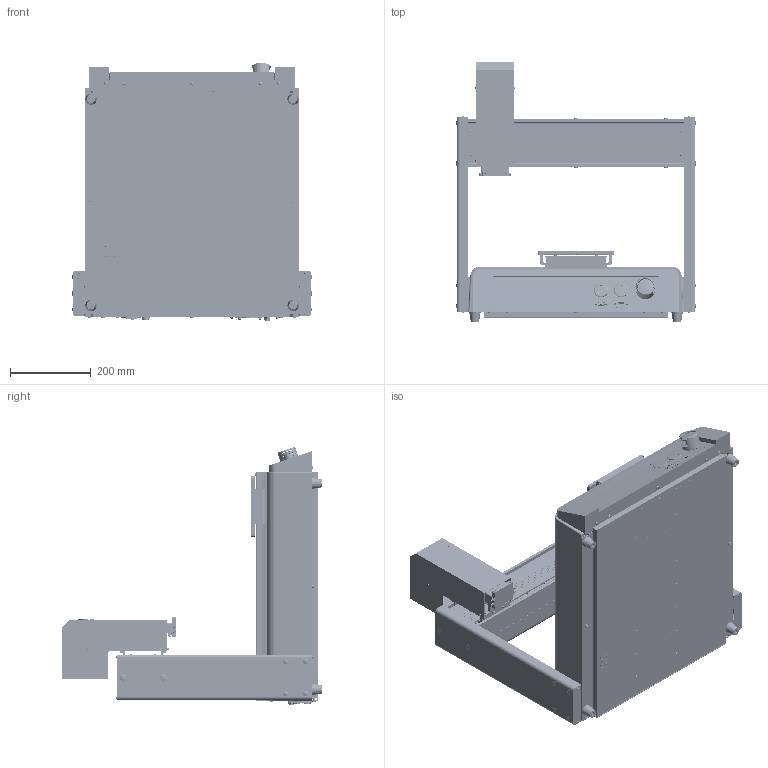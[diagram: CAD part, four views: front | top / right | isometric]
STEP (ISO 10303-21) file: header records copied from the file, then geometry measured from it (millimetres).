
FILE_DESCRIPTION(('FreeCAD Model'),'2;1');
FILE_NAME('C:/Users/martin.stroffek/Desktop/robots/E/NORDSONEFD-7361347 ROBOT E4TP 3 AXIS 400X400X100MM.STEP','2020-02-01T17:19:22',('Author'),(''), 'Open CASCADE STEP processor 7.2','FreeCAD','Unknown');
FILE_SCHEMA(('AUTOMOTIVE_DESIGN { 1 0 10303 214 1 1 1 1 }'));
Length unit declared in the file: millimetre
Products named in the file (5): NORDSONEFD_7361347_ROBOT_E4TP_3_AXIS_400X400X100MM; NORDSONEFD-7361347_ROBOT_E4TP_3_AXIS_400X400X100MM_E4-Base; NORDSONEFD-7361347_ROBOT_E4TP_3_AXIS_400X400X100MM_E4-Fixture_plate; NORDSONEFD-7361347_ROBOT_E4TP_3_AXIS_400X400X100MM_E4-X_carriage; NORDSONEFD-7361347_ROBOT_E4TP_3_AXIS_400X400X100MM_E4-Z_head
Assembly tree (4 placements, depth 2):
  NORDSONEFD_7361347_ROBOT_E4TP_3_AXIS_400X400X100MM
    NORDSONEFD-7361347_ROBOT_E4TP_3_AXIS_400X400X100MM_E4-Base
    NORDSONEFD-7361347_ROBOT_E4TP_3_AXIS_400X400X100MM_E4-Fixture_plate
    NORDSONEFD-7361347_ROBOT_E4TP_3_AXIS_400X400X100MM_E4-X_carriage
    NORDSONEFD-7361347_ROBOT_E4TP_3_AXIS_400X400X100MM_E4-Z_head
Bounding box: 592.46 x 644.25 x 637.97 mm (x, y, z)
Volume: 10650507.3 mm3; surface area: 4165637.3 mm2
Topology: 4 solids, 4 shells, 9483 faces, 25579 edges, 16563 vertices
Faces by surface type: plane 4515, cylinder 2220, bspline 1667, cone 1027, sphere 36, revolution 14, torus 4
Entity records: 898889 total; most frequent: CARTESIAN_POINT 364483, DIRECTION 76793, ORIENTED_EDGE 50558, PCURVE 50558, DEFINITIONAL_REPRESENTATION 50558, LINE 46008, VECTOR 46008, EDGE_CURVE 25279
